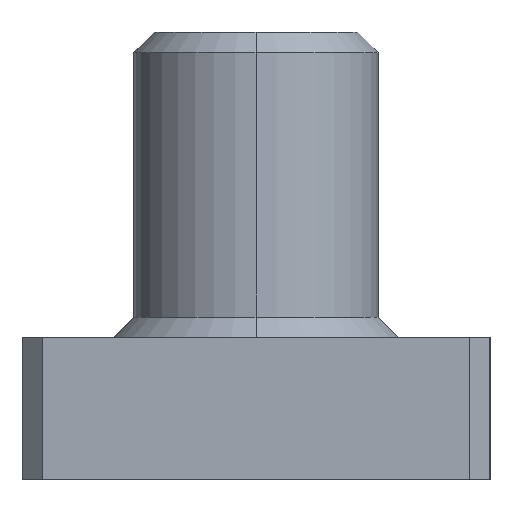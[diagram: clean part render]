
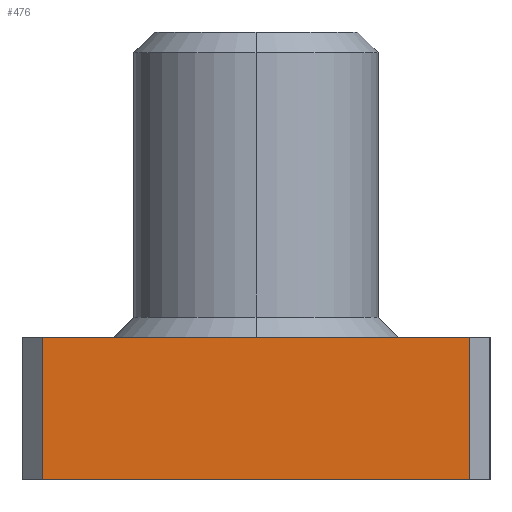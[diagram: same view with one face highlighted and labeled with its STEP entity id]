
A CAD part, left-side view. The second image highlights one B-rep face of the part: STEP entity #476.
In plain terms, the highlighted planar face has unit normal (-1, 0, 0).
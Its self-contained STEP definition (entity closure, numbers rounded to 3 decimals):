
#4 = CARTESIAN_POINT ( 'NONE',  ( -16.5, 10.5, 7. ) ) ;
#10 = VERTEX_POINT ( 'NONE', #576 ) ;
#45 = AXIS2_PLACEMENT_3D ( 'NONE', #196, #920, #210 ) ;
#56 = VECTOR ( 'NONE', #822, 1000. ) ;
#104 = CARTESIAN_POINT ( 'NONE',  ( -16.5, -10.5, 7. ) ) ;
#146 = LINE ( 'NONE', #579, #600 ) ;
#149 = CARTESIAN_POINT ( 'NONE',  ( -16.5, 10.5, 3.5 ) ) ;
#196 = CARTESIAN_POINT ( 'NONE',  ( -16.5, -10.5, 7. ) ) ;
#210 = DIRECTION ( 'NONE',  ( 0., 0., -1. ) ) ;
#249 = LINE ( 'NONE', #149, #731 ) ;
#282 = CARTESIAN_POINT ( 'NONE',  ( -16.5, 0., 0. ) ) ;
#341 = EDGE_CURVE ( 'NONE', #720, #509, #249, .T. ) ;
#365 = ORIENTED_EDGE ( 'NONE', *, *, #770, .F. ) ;
#476 = ADVANCED_FACE ( 'NONE', ( #573 ), #479, .F. ) ;
#479 = PLANE ( 'NONE',  #45 ) ;
#492 = DIRECTION ( 'NONE',  ( 0., -1., 0. ) ) ;
#509 = VERTEX_POINT ( 'NONE', #4 ) ;
#573 = FACE_OUTER_BOUND ( 'NONE', #1040, .T. ) ;
#576 = CARTESIAN_POINT ( 'NONE',  ( -16.5, -10.5, 0. ) ) ;
#579 = CARTESIAN_POINT ( 'NONE',  ( -16.5, 0., 7. ) ) ;
#595 = CARTESIAN_POINT ( 'NONE',  ( -16.5, -10.5, 3.5 ) ) ;
#600 = VECTOR ( 'NONE', #492, 1000. ) ;
#613 = LINE ( 'NONE', #282, #56 ) ;
#621 = ORIENTED_EDGE ( 'NONE', *, *, #713, .F. ) ;
#649 = LINE ( 'NONE', #595, #1081 ) ;
#713 = EDGE_CURVE ( 'NONE', #1104, #10, #649, .T. ) ;
#720 = VERTEX_POINT ( 'NONE', #859 ) ;
#731 = VECTOR ( 'NONE', #836, 1000. ) ;
#770 = EDGE_CURVE ( 'NONE', #509, #1104, #146, .T. ) ;
#818 = ORIENTED_EDGE ( 'NONE', *, *, #1115, .F. ) ;
#822 = DIRECTION ( 'NONE',  ( 0., 1., 0. ) ) ;
#836 = DIRECTION ( 'NONE',  ( 0., 0., 1. ) ) ;
#859 = CARTESIAN_POINT ( 'NONE',  ( -16.5, 10.5, 0. ) ) ;
#906 = DIRECTION ( 'NONE',  ( 0., 0., -1. ) ) ;
#920 = DIRECTION ( 'NONE',  ( 1., 0., 0. ) ) ;
#1040 = EDGE_LOOP ( 'NONE', ( #621, #365, #1046, #818 ) ) ;
#1046 = ORIENTED_EDGE ( 'NONE', *, *, #341, .F. ) ;
#1081 = VECTOR ( 'NONE', #906, 1000. ) ;
#1104 = VERTEX_POINT ( 'NONE', #104 ) ;
#1115 = EDGE_CURVE ( 'NONE', #10, #720, #613, .T. ) ;
